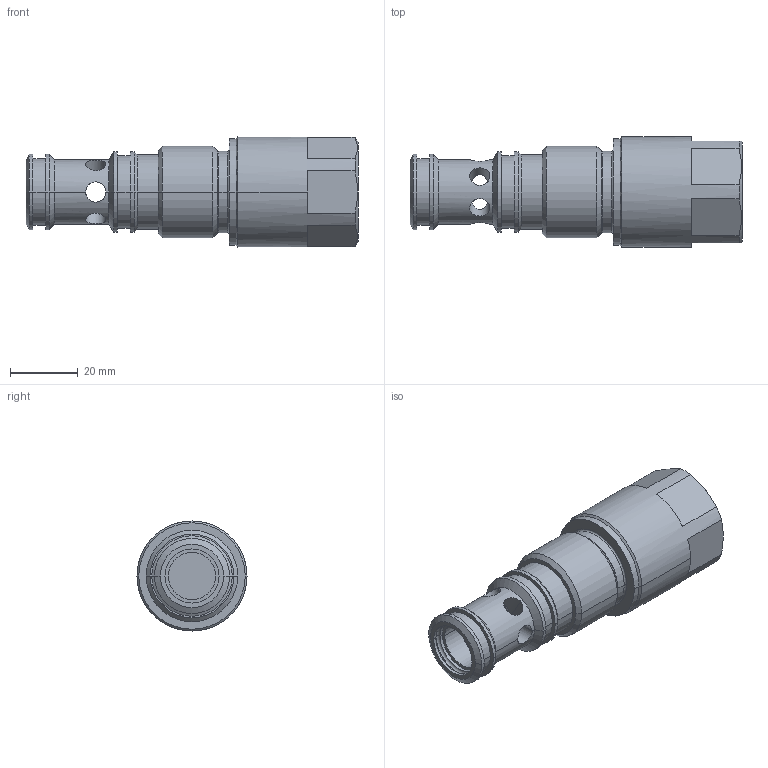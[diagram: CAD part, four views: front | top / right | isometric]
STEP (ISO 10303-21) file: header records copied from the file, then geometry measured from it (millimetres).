
FILE_DESCRIPTION((''),'2;1');
FILE_NAME('SL2H_CP3_H2I12_47003029','2024-12-06T10:13:50',('l.soukupova'),(''),'CREO PARAMETRIC BY PTC INC, 2023254','CREO PARAMETRIC BY PTC INC, 2023254','');
FILE_SCHEMA(('AUTOMOTIVE_DESIGN { 1 0 10303 214 1 1 1 1 }'));
Length unit declared in the file: millimetre
Products named in the file (1): SL2H_CP3_H2I12_47003029
Bounding box: 98.01 x 32.5 x 32.5 mm (x, y, z)
Volume: 51787 mm3; surface area: 11481.4 mm2
Topology: 1 solids, 1 shells, 93 faces, 206 edges, 118 vertices
Faces by surface type: cylinder 46, plane 23, cone 16, torus 8
Entity records: 4143 total; most frequent: CARTESIAN_POINT 1297, DIRECTION 464, ORIENTED_EDGE 412, PRESENTATION_STYLE_ASSIGNMENT 211, STYLED_ITEM 207, CURVE_STYLE 206, EDGE_CURVE 206, AXIS2_PLACEMENT_3D 191
